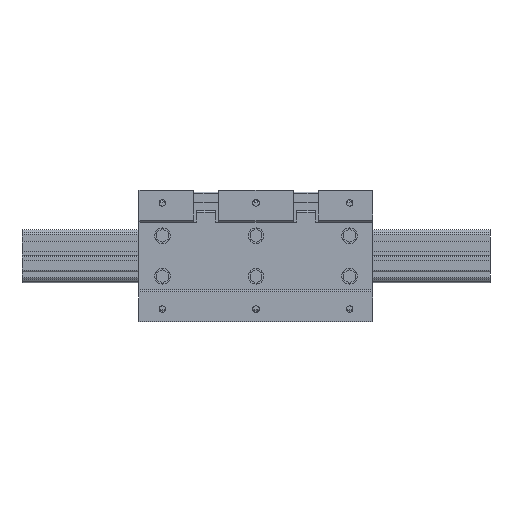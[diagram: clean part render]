
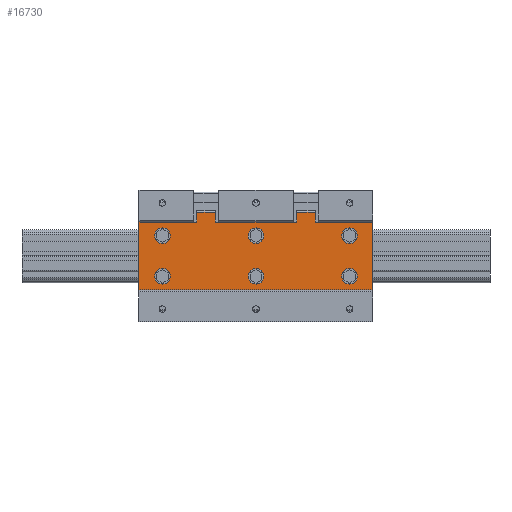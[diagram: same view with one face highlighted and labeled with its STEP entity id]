
A CAD part, top view. The second image highlights one B-rep face of the part: STEP entity #16730.
In plain terms, the highlighted planar face has unit normal (0, 0, 1).
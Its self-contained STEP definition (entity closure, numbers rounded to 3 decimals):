
#9248=CARTESIAN_POINT('',(130.0,-13.0,18.));
#9249=VERTEX_POINT('',#9248);
#9250=CARTESIAN_POINT('',(135.0,-13.0,18.));
#9251=DIRECTION('',(0.0,0.0,-1.0));
#9252=DIRECTION('',(-1.0,0.0,0.0));
#9253=AXIS2_PLACEMENT_3D('',#9250,#9251,#9252);
#9254=CIRCLE('',#9253,5.0);
#9255=EDGE_CURVE('',#9249,#9249,#9254,.T.);
#9344=CARTESIAN_POINT('',(70.0,-13.0,18.));
#9345=VERTEX_POINT('',#9344);
#9346=CARTESIAN_POINT('',(75.0,-13.0,18.));
#9347=DIRECTION('',(0.0,0.0,-1.0));
#9348=DIRECTION('',(-1.0,0.0,0.0));
#9349=AXIS2_PLACEMENT_3D('',#9346,#9347,#9348);
#9350=CIRCLE('',#9349,5.0);
#9351=EDGE_CURVE('',#9345,#9345,#9350,.T.);
#9440=CARTESIAN_POINT('',(10.0,-13.0,18.));
#9441=VERTEX_POINT('',#9440);
#9442=CARTESIAN_POINT('',(15.0,-13.0,18.));
#9443=DIRECTION('',(0.0,0.0,-1.0));
#9444=DIRECTION('',(-1.0,0.0,0.0));
#9445=AXIS2_PLACEMENT_3D('',#9442,#9443,#9444);
#9446=CIRCLE('',#9445,5.0);
#9447=EDGE_CURVE('',#9441,#9441,#9446,.T.);
#9536=CARTESIAN_POINT('',(130.0,13.0,18.));
#9537=VERTEX_POINT('',#9536);
#9538=CARTESIAN_POINT('',(135.0,13.0,18.));
#9539=DIRECTION('',(0.0,0.0,-1.0));
#9540=DIRECTION('',(-1.0,0.0,0.0));
#9541=AXIS2_PLACEMENT_3D('',#9538,#9539,#9540);
#9542=CIRCLE('',#9541,5.0);
#9543=EDGE_CURVE('',#9537,#9537,#9542,.T.);
#9632=CARTESIAN_POINT('',(70.0,13.0,18.));
#9633=VERTEX_POINT('',#9632);
#9634=CARTESIAN_POINT('',(75.0,13.0,18.));
#9635=DIRECTION('',(0.0,0.0,-1.0));
#9636=DIRECTION('',(-1.0,0.0,0.0));
#9637=AXIS2_PLACEMENT_3D('',#9634,#9635,#9636);
#9638=CIRCLE('',#9637,5.0);
#9639=EDGE_CURVE('',#9633,#9633,#9638,.T.);
#9914=CARTESIAN_POINT('',(10.0,13.0,18.));
#9915=VERTEX_POINT('',#9914);
#9916=CARTESIAN_POINT('',(15.0,13.0,18.));
#9917=DIRECTION('',(0.0,0.0,-1.0));
#9918=DIRECTION('',(-1.0,0.0,0.0));
#9919=AXIS2_PLACEMENT_3D('',#9916,#9917,#9918);
#9920=CIRCLE('',#9919,5.0);
#9921=EDGE_CURVE('',#9915,#9915,#9920,.T.);
#15175=CARTESIAN_POINT('',(101.,21.7,18.));
#15176=VERTEX_POINT('',#15175);
#15183=CARTESIAN_POINT('',(101.,28.,18.));
#15184=VERTEX_POINT('',#15183);
#15185=CARTESIAN_POINT('',(101.,28.,18.));
#15186=DIRECTION('',(0.0,-1.0,0.0));
#15187=VECTOR('',#15186,6.3);
#15188=LINE('',#15185,#15187);
#15189=EDGE_CURVE('',#15184,#15176,#15188,.T.);
#15246=CARTESIAN_POINT('',(113.0,28.,18.));
#15247=VERTEX_POINT('',#15246);
#15264=CARTESIAN_POINT('',(101.,28.,18.));
#15265=DIRECTION('',(1.0,0.0,0.0));
#15266=VECTOR('',#15265,12.);
#15267=LINE('',#15264,#15266);
#15268=EDGE_CURVE('',#15184,#15247,#15267,.T.);
#15348=CARTESIAN_POINT('',(113.0,21.7,18.));
#15349=VERTEX_POINT('',#15348);
#15350=CARTESIAN_POINT('',(113.0,21.7,18.));
#15351=DIRECTION('',(0.0,1.0,0.0));
#15352=VECTOR('',#15351,6.3);
#15353=LINE('',#15350,#15352);
#15354=EDGE_CURVE('',#15349,#15247,#15353,.T.);
#15387=CARTESIAN_POINT('',(99.,21.7,18.));
#15388=VERTEX_POINT('',#15387);
#15395=CARTESIAN_POINT('',(99.,21.7,18.));
#15396=DIRECTION('',(1.0,0.0,0.0));
#15397=VECTOR('',#15396,2.);
#15398=LINE('',#15395,#15397);
#15399=EDGE_CURVE('',#15388,#15176,#15398,.T.);
#15410=CARTESIAN_POINT('',(115.0,21.7,18.));
#15411=VERTEX_POINT('',#15410);
#15412=CARTESIAN_POINT('',(113.0,21.7,18.));
#15413=DIRECTION('',(1.0,0.0,0.0));
#15414=VECTOR('',#15413,2.0);
#15415=LINE('',#15412,#15414);
#15416=EDGE_CURVE('',#15349,#15411,#15415,.T.);
#15623=CARTESIAN_POINT('',(150.0,21.7,18.));
#15624=VERTEX_POINT('',#15623);
#15625=CARTESIAN_POINT('',(115.0,21.7,18.));
#15626=DIRECTION('',(1.0,0.0,0.0));
#15627=VECTOR('',#15626,35.0);
#15628=LINE('',#15625,#15627);
#15629=EDGE_CURVE('',#15411,#15624,#15628,.T.);
#15663=CARTESIAN_POINT('',(51.,21.7,18.));
#15664=VERTEX_POINT('',#15663);
#15672=CARTESIAN_POINT('',(51.,21.7,18.));
#15673=DIRECTION('',(1.0,0.0,0.0));
#15674=VECTOR('',#15673,48.);
#15675=LINE('',#15672,#15674);
#15676=EDGE_CURVE('',#15664,#15388,#15675,.T.);
#16198=CARTESIAN_POINT('',(37.,21.7,18.));
#16199=VERTEX_POINT('',#16198);
#16206=CARTESIAN_POINT('',(37.,28.,18.));
#16207=VERTEX_POINT('',#16206);
#16208=CARTESIAN_POINT('',(37.,28.,18.));
#16209=DIRECTION('',(0.0,-1.0,0.0));
#16210=VECTOR('',#16209,6.3);
#16211=LINE('',#16208,#16210);
#16212=EDGE_CURVE('',#16207,#16199,#16211,.T.);
#16262=CARTESIAN_POINT('',(49.,28.,18.));
#16263=VERTEX_POINT('',#16262);
#16280=CARTESIAN_POINT('',(37.,28.,18.));
#16281=DIRECTION('',(1.0,0.0,0.0));
#16282=VECTOR('',#16281,12.);
#16283=LINE('',#16280,#16282);
#16284=EDGE_CURVE('',#16207,#16263,#16283,.T.);
#16364=CARTESIAN_POINT('',(49.,21.7,18.));
#16365=VERTEX_POINT('',#16364);
#16366=CARTESIAN_POINT('',(49.,21.7,18.));
#16367=DIRECTION('',(0.0,1.0,0.0));
#16368=VECTOR('',#16367,6.3);
#16369=LINE('',#16366,#16368);
#16370=EDGE_CURVE('',#16365,#16263,#16369,.T.);
#16389=CARTESIAN_POINT('',(35.,21.7,18.));
#16390=VERTEX_POINT('',#16389);
#16397=CARTESIAN_POINT('',(35.,21.7,18.));
#16398=DIRECTION('',(1.0,0.0,0.0));
#16399=VECTOR('',#16398,2.);
#16400=LINE('',#16397,#16399);
#16401=EDGE_CURVE('',#16390,#16199,#16400,.T.);
#16412=CARTESIAN_POINT('',(49.,21.7,18.));
#16413=DIRECTION('',(1.0,0.0,0.0));
#16414=VECTOR('',#16413,2.);
#16415=LINE('',#16412,#16414);
#16416=EDGE_CURVE('',#16365,#15664,#16415,.T.);
#16644=CARTESIAN_POINT('',(150.0,-21.7,18.));
#16645=VERTEX_POINT('',#16644);
#16653=CARTESIAN_POINT('',(0.0,-21.7,18.));
#16654=VERTEX_POINT('',#16653);
#16655=CARTESIAN_POINT('',(0.0,-21.7,18.));
#16656=DIRECTION('',(1.0,0.0,0.0));
#16657=VECTOR('',#16656,150.0);
#16658=LINE('',#16655,#16657);
#16659=EDGE_CURVE('',#16654,#16645,#16658,.T.);
#16672=CARTESIAN_POINT('',(0.0,-21.7,18.));
#16673=DIRECTION('',(0.0,0.0,1.0));
#16674=DIRECTION('',(1.0,0.0,0.0));
#16675=AXIS2_PLACEMENT_3D('',#16672,#16673,#16674);
#16676=PLANE('',#16675);
#16677=CARTESIAN_POINT('',(150.0,-21.7,18.));
#16678=DIRECTION('',(0.0,1.0,0.0));
#16679=VECTOR('',#16678,43.4);
#16680=LINE('',#16677,#16679);
#16681=EDGE_CURVE('',#16645,#15624,#16680,.T.);
#16682=ORIENTED_EDGE('',*,*,#16681,.T.);
#16683=ORIENTED_EDGE('',*,*,#15629,.F.);
#16684=ORIENTED_EDGE('',*,*,#15416,.F.);
#16685=ORIENTED_EDGE('',*,*,#15354,.T.);
#16686=ORIENTED_EDGE('',*,*,#15268,.F.);
#16687=ORIENTED_EDGE('',*,*,#15189,.T.);
#16688=ORIENTED_EDGE('',*,*,#15399,.F.);
#16689=ORIENTED_EDGE('',*,*,#15676,.F.);
#16690=ORIENTED_EDGE('',*,*,#16416,.F.);
#16691=ORIENTED_EDGE('',*,*,#16370,.T.);
#16692=ORIENTED_EDGE('',*,*,#16284,.F.);
#16693=ORIENTED_EDGE('',*,*,#16212,.T.);
#16694=ORIENTED_EDGE('',*,*,#16401,.F.);
#16695=CARTESIAN_POINT('',(0.0,21.7,18.));
#16696=VERTEX_POINT('',#16695);
#16697=CARTESIAN_POINT('',(0.0,21.7,18.));
#16698=DIRECTION('',(1.0,0.0,0.0));
#16699=VECTOR('',#16698,35.);
#16700=LINE('',#16697,#16699);
#16701=EDGE_CURVE('',#16696,#16390,#16700,.T.);
#16702=ORIENTED_EDGE('',*,*,#16701,.F.);
#16703=CARTESIAN_POINT('',(0.0,21.7,18.));
#16704=DIRECTION('',(0.0,-1.0,0.0));
#16705=VECTOR('',#16704,43.4);
#16706=LINE('',#16703,#16705);
#16707=EDGE_CURVE('',#16696,#16654,#16706,.T.);
#16708=ORIENTED_EDGE('',*,*,#16707,.T.);
#16709=ORIENTED_EDGE('',*,*,#16659,.T.);
#16710=EDGE_LOOP('',(#16682,#16683,#16684,#16685,#16686,#16687,#16688,#16689,#16690,#16691,#16692,#16693,#16694,#16702,#16708,#16709));
#16711=FACE_OUTER_BOUND('',#16710,.T.);
#16712=ORIENTED_EDGE('',*,*,#9255,.T.);
#16713=EDGE_LOOP('',(#16712));
#16714=FACE_BOUND('',#16713,.T.);
#16715=ORIENTED_EDGE('',*,*,#9351,.T.);
#16716=EDGE_LOOP('',(#16715));
#16717=FACE_BOUND('',#16716,.T.);
#16718=ORIENTED_EDGE('',*,*,#9447,.T.);
#16719=EDGE_LOOP('',(#16718));
#16720=FACE_BOUND('',#16719,.T.);
#16721=ORIENTED_EDGE('',*,*,#9543,.T.);
#16722=EDGE_LOOP('',(#16721));
#16723=FACE_BOUND('',#16722,.T.);
#16724=ORIENTED_EDGE('',*,*,#9639,.T.);
#16725=EDGE_LOOP('',(#16724));
#16726=FACE_BOUND('',#16725,.T.);
#16727=ORIENTED_EDGE('',*,*,#9921,.T.);
#16728=EDGE_LOOP('',(#16727));
#16729=FACE_BOUND('',#16728,.T.);
#16730=ADVANCED_FACE('',(#16711,#16714,#16717,#16720,#16723,#16726,#16729),#16676,.T.);
